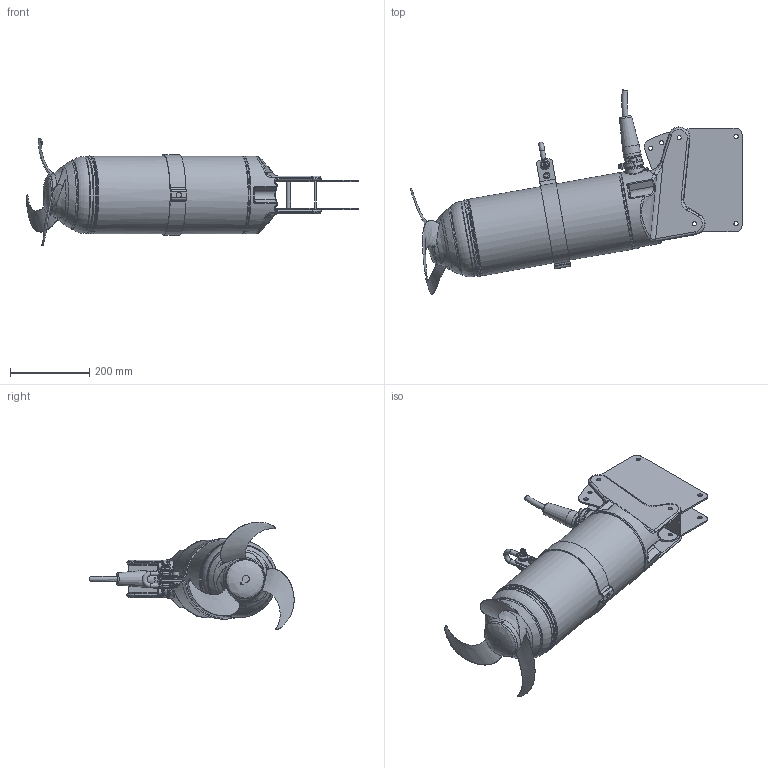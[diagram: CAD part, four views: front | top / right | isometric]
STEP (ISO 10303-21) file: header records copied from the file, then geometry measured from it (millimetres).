
FILE_DESCRIPTION (( 'STEP AP203' ), '1' );
FILE_NAME ('XRW 300 and Vertical Angle Adjustment -10°.STEP', '2018-01-05T10:32:53', ( '' ), ( '' ), 'SwSTEP 2.0', 'SolidWorks 2017', '' );
FILE_SCHEMA (( 'CONFIG_CONTROL_DESIGN' ));
Length unit declared in the file: millimetre
Products named in the file (2): XRW 300 and Vertical Angle Adjustment -10°
Bounding box: 835.9 x 514.1 x 270.76 mm (x, y, z)
Volume: 17237823.9 mm3; surface area: 849476.7 mm2
Topology: 5 solids, 9 shells, 1092 faces, 2719 edges, 1634 vertices
Faces by surface type: plane 346, cylinder 342, bspline 279, torus 96, cone 25, sphere 4
Full cylindrical faces by diameter (mm): 2.9 x12, 6 x5, 6.6 x1, 8.5 x4, 10 x9, 10.2 x1, 10.5 x19, 11 x7, 11.5 x1, 12 x4, 12.2 x2, 13 x1, 13.5 x1, 16 x3, 17 x1, 17.9 x1, 18.2 x2, 20 x1, 23.7 x2, 41.5 x1, 43 x2, 172 x1, 173.7 x1, 180 x1, 191 x1, 193 x2, 196 x2
Entity records: 54610 total; most frequent: CARTESIAN_POINT 31650, ORIENTED_EDGE 4870, DIRECTION 4298, EDGE_CURVE 2435, AXIS2_PLACEMENT_3D 1706, VERTEX_POINT 1562, EDGE_LOOP 1365, FACE_OUTER_BOUND 1215
